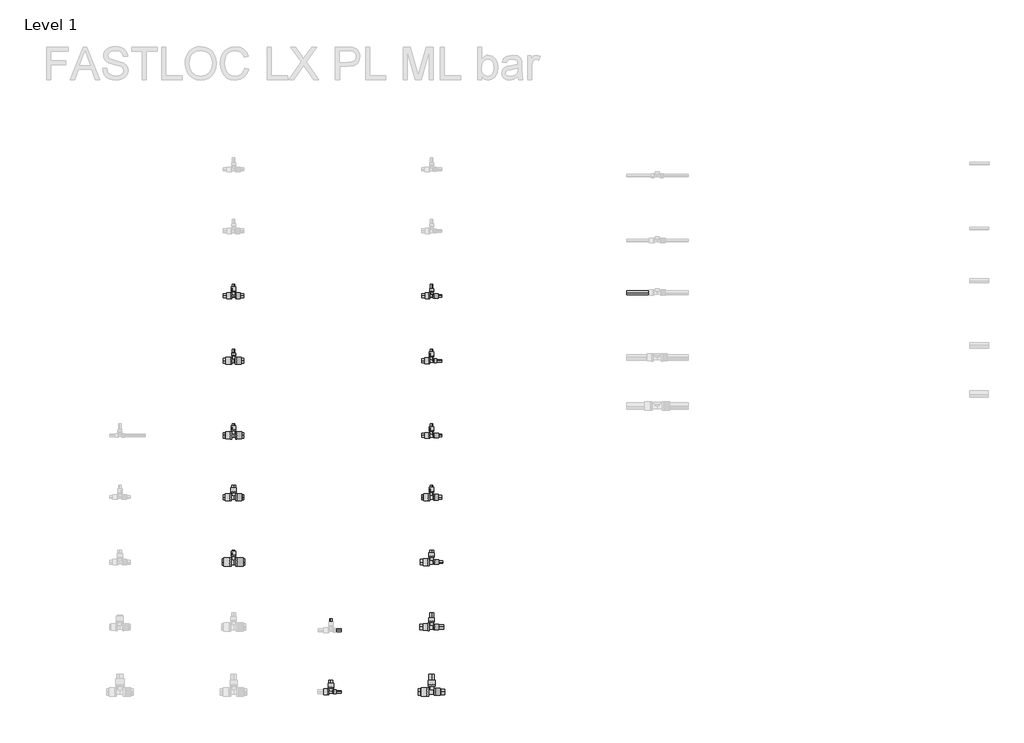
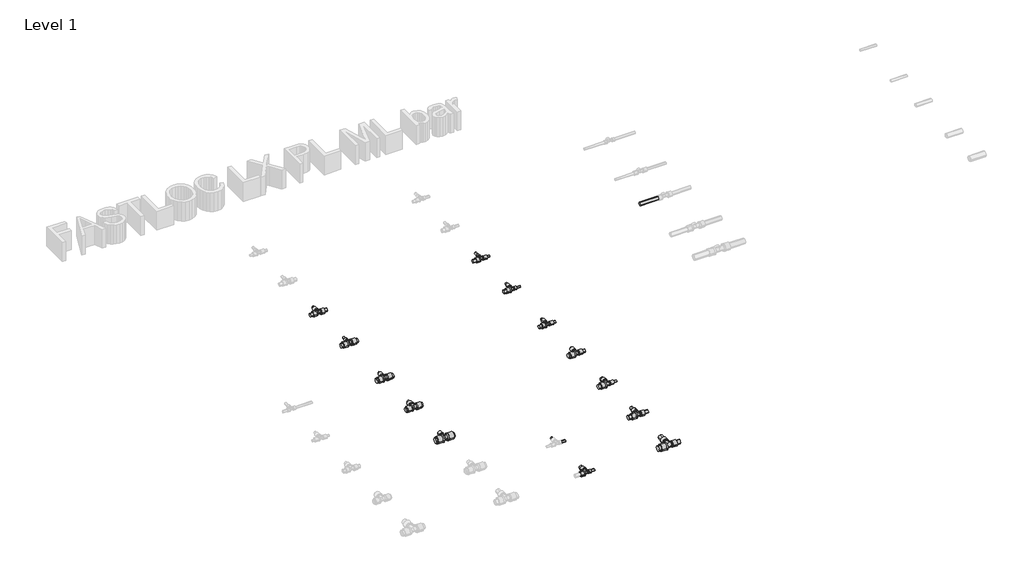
# One storey, part 3 of 78: 41 pipe segments, 13 pipe fittings.
"""IFC4 building model written with IfcOpenShell, lengths in millimetres."""

from ifc_helpers import new_model, si_unit, point, frame, frame_2d, origin, place, context, project, spatial, circle_curve, trimmed, segment, composite_curve, outline, extrude, transform, mapped, element, save
from components import pipe_fitting_7435f538, pipe_fitting_b40a3e3c, pipe_fitting_68251213, pipe_fitting_d9a56b63, pipe_fitting_a094db19, pipe_fitting_16730f07, pipe_fitting_5d5decb5, pipe_fitting_f2600fd0, pipe_fitting_8d489ee2, pipe_fitting_c4e8b4db, pipe_fitting_757463f1, pipe_fitting_3bea6388, pipe_fitting_e638986c

model = new_model("IFC4")

# Units and contexts
model_context = context("Model", 3, world=origin())
ifc_project = project(units=[si_unit("LENGTHUNIT", "METRE", prefix="MILLI")], contexts=[model_context])

# Site, building, storey
site = spatial("IfcSite", under=ifc_project)
building = spatial("IfcBuilding", under=site)
storey = spatial("IfcBuildingStorey", under=building, Name="Level 1", Elevation=0.0)

# Pipe fittings
placement = place(None, origin())
pipe_fitting_shape = pipe_fitting_7435f538(model_context)
element("IfcPipeFitting", 1, ObjectType="FASTLOC_T-piece_LX : FSL T-Piece LX PL", at=placement, inside=storey, context=model_context, shape_type="MappedRepresentation", body=[
    mapped(pipe_fitting_shape, transform((426.7498072, -37180.2405791, 0.0), x_axis=(1.0, 0.0, 0.0), y_axis=(0.0, 1.0, 0.0), z_axis=(0.0, 0.0, 1.0))),
])
pipe_fitting_2_shape = pipe_fitting_b40a3e3c(model_context)
element("IfcPipeFitting", 2, ObjectType="FASTLOC_T-piece_LX : FSL T-Piece LX PL", at=placement, inside=storey, context=model_context, shape_type="MappedRepresentation", body=[
    mapped(pipe_fitting_2_shape, transform((426.7498072, -37560.2405791, 0.0), x_axis=(1.0, 0.0, 0.0), y_axis=(0.0, 1.0, 0.0), z_axis=(0.0, 0.0, 1.0))),
])
pipe_fitting_3_shape = pipe_fitting_68251213(model_context)
element("IfcPipeFitting", 3, ObjectType="FASTLOC_T-piece_LX : FSL T-Piece LX PL", at=placement, inside=storey, context=model_context, shape_type="MappedRepresentation", body=[
    mapped(pipe_fitting_3_shape, transform((426.7498072, -37960.2405791, 0.0), x_axis=(1.0, 0.0, 0.0), y_axis=(0.0, 1.0, 0.0), z_axis=(0.0, 0.0, 1.0))),
])
pipe_fitting_4_shape = pipe_fitting_d9a56b63(model_context)
element("IfcPipeFitting", 4, ObjectType="FASTLOC_T-piece_LX : FSL T-Piece LX PL", at=placement, inside=storey, context=model_context, shape_type="MappedRepresentation", body=[
    mapped(pipe_fitting_4_shape, transform((426.7498072, -36320.2405791, 0.0), x_axis=(1.0, 0.0, 0.0), y_axis=(0.0, 1.0, 0.0), z_axis=(0.0, 0.0, 1.0))),
])
pipe_fitting_5_shape = pipe_fitting_a094db19(model_context)
element("IfcPipeFitting", 5, ObjectType="FASTLOC_T-piece_LX : FSL T-Piece LX PL", at=placement, inside=storey, context=model_context, shape_type="MappedRepresentation", body=[
    mapped(pipe_fitting_5_shape, transform((426.7498072, -36720.2405791, 0.0), x_axis=(1.0, 0.0, 0.0), y_axis=(0.0, 1.0, 0.0), z_axis=(0.0, 0.0, 1.0))),
])
pipe_fitting_6_shape = pipe_fitting_16730f07(model_context)
element("IfcPipeFitting", 6, ObjectType="FASTLOC_T-piece_LX : FSL T-Piece LX PL", at=placement, inside=storey, context=model_context, shape_type="MappedRepresentation", body=[
    mapped(pipe_fitting_6_shape, transform((1026.7498072, -38760.2405791, 0.0), x_axis=(1.0, 0.0, 0.0), y_axis=(0.0, 1.0, 0.0), z_axis=(0.0, 0.0, 1.0))),
])
pipe_fitting_7_shape = pipe_fitting_5d5decb5(model_context)
element("IfcPipeFitting", 7, ObjectType="FASTLOC_T-piece_LX : FSL T-Piece LX PL", at=placement, inside=storey, context=model_context, shape_type="MappedRepresentation", body=[
    mapped(pipe_fitting_7_shape, transform((1646.7498072, -37180.2405791, 0.0), x_axis=(1.0, 0.0, 0.0), y_axis=(0.0, 1.0, 0.0), z_axis=(0.0, 0.0, 1.0))),
])
pipe_fitting_8_shape = pipe_fitting_f2600fd0(model_context)
element("IfcPipeFitting", 8, ObjectType="FASTLOC_T-piece_LX : FSL T-Piece LX PL", at=placement, inside=storey, context=model_context, shape_type="MappedRepresentation", body=[
    mapped(pipe_fitting_8_shape, transform((1646.7498072, -37560.2405791, 0.0), x_axis=(1.0, 0.0, 0.0), y_axis=(0.0, 1.0, 0.0), z_axis=(0.0, 0.0, 1.0))),
])
pipe_fitting_9_shape = pipe_fitting_8d489ee2(model_context)
element("IfcPipeFitting", 9, ObjectType="FASTLOC_T-piece_LX : FSL T-Piece LX PL", at=placement, inside=storey, context=model_context, shape_type="MappedRepresentation", body=[
    mapped(pipe_fitting_9_shape, transform((1646.7498072, -37960.2405791, 0.0), x_axis=(1.0, 0.0, 0.0), y_axis=(0.0, 1.0, 0.0), z_axis=(0.0, 0.0, 1.0))),
])
pipe_fitting_10_shape = pipe_fitting_c4e8b4db(model_context)
element("IfcPipeFitting", 10, ObjectType="FASTLOC_T-piece_LX : FSL T-Piece LX PL", at=placement, inside=storey, context=model_context, shape_type="MappedRepresentation", body=[
    mapped(pipe_fitting_10_shape, transform((1646.7498072, -38360.2405791, 0.0), x_axis=(1.0, 0.0, 0.0), y_axis=(0.0, 1.0, 0.0), z_axis=(0.0, 0.0, 1.0))),
])
pipe_fitting_11_shape = pipe_fitting_757463f1(model_context)
element("IfcPipeFitting", 11, ObjectType="FASTLOC_T-piece_LX : FSL T-Piece LX PL", at=placement, inside=storey, context=model_context, shape_type="MappedRepresentation", body=[
    mapped(pipe_fitting_11_shape, transform((1646.7498072, -38760.2405791, 0.0), x_axis=(1.0, 0.0, 0.0), y_axis=(0.0, 1.0, 0.0), z_axis=(0.0, 0.0, 1.0))),
])
pipe_fitting_12_shape = pipe_fitting_3bea6388(model_context)
element("IfcPipeFitting", 12, ObjectType="FASTLOC_T-piece_LX : FSL T-Piece LX PL", at=placement, inside=storey, context=model_context, shape_type="MappedRepresentation", body=[
    mapped(pipe_fitting_12_shape, transform((1646.7498072, -36320.2405791, 0.0), x_axis=(1.0, 0.0, 0.0), y_axis=(0.0, 1.0, 0.0), z_axis=(0.0, 0.0, 1.0))),
])
pipe_fitting_13_shape = pipe_fitting_e638986c(model_context)
element("IfcPipeFitting", 13, ObjectType="FASTLOC_T-piece_LX : FSL T-Piece LX PL", at=placement, inside=storey, context=model_context, shape_type="MappedRepresentation", body=[
    mapped(pipe_fitting_13_shape, transform((1646.7498072, -36720.2405791, 0.0), x_axis=(1.0, 0.0, 0.0), y_axis=(0.0, 1.0, 0.0), z_axis=(0.0, 0.0, 1.0))),
])

# Pipe segments
element("IfcPipeSegment", 14, ObjectType="FASTLOC LX ML PL bar", at=placement, inside=storey, context=model_context, shape_type="SweptSolid", body=[
    extrude(outline(composite_curve([segment(trimmed(circle_curve(frame_2d((-37180.2405791, 0.0)), 16.0), [point((-37196.2405791, 0.0))], [point((-37180.2405791, 16.0))], False, "CARTESIAN"), True, "CONTINUOUS"), segment(trimmed(circle_curve(frame_2d((-37180.2405791, 0.0)), 16.0), [point((-37180.2405791, 16.0))], [point((-37164.2405791, 0.0))], False, "CARTESIAN"), True, "CONTINUOUS"), segment(trimmed(circle_curve(frame_2d((-37180.2405791, 0.0)), 16.0), [point((-37164.2405791, 0.0))], [point((-37180.2405791, -16.0))], False, "CARTESIAN"), True, "CONTINUOUS"), segment(trimmed(circle_curve(frame_2d((-37180.2405791, 0.0)), 16.0), [point((-37180.2405791, -16.0))], [point((-37196.2405791, 0.0))], False, "CARTESIAN"), True, "CONTINUOUS")], self_intersect=False)), frame((446.9498072, 0.0, 0.0), z_axis=(1.0, 0.0, 0.0), x_axis=(0.0, 1.0, 0.0)), (0.0, 0.0, 1.0), 41.8),
])
element("IfcPipeSegment", 15, ObjectType="FASTLOC LX ML PL bar", at=placement, inside=storey, context=model_context, shape_type="SweptSolid", body=[
    extrude(outline(composite_curve([segment(trimmed(circle_curve(frame_2d((-37180.2405791, 0.0)), 16.0), [point((-37164.2405791, 0.0))], [point((-37180.2405791, -16.0))], False, "CARTESIAN"), True, "CONTINUOUS"), segment(trimmed(circle_curve(frame_2d((-37180.2405791, 0.0)), 16.0), [point((-37180.2405791, -16.0))], [point((-37196.2405791, 0.0))], False, "CARTESIAN"), True, "CONTINUOUS"), segment(trimmed(circle_curve(frame_2d((-37180.2405791, 0.0)), 16.0), [point((-37196.2405791, 0.0))], [point((-37180.2405791, 16.0))], False, "CARTESIAN"), True, "CONTINUOUS"), segment(trimmed(circle_curve(frame_2d((-37180.2405791, 0.0)), 16.0), [point((-37180.2405791, 16.0))], [point((-37164.2405791, 0.0))], False, "CARTESIAN"), True, "CONTINUOUS")], self_intersect=False)), frame((364.7498072, 0.0, 0.0), z_axis=(1.0, 0.0, 0.0), x_axis=(0.0, 1.0, 0.0)), (0.0, 0.0, 1.0), 41.8),
])
element("IfcPipeSegment", 16, ObjectType="FASTLOC LX ML PL bar", at=placement, inside=storey, context=model_context, shape_type="SweptSolid", body=[
    extrude(outline(composite_curve([segment(trimmed(circle_curve(frame_2d((0.0, 426.7498072)), 8.0), [point((0.0, 434.7498072))], [point((8.0, 426.7498072))], False, "CARTESIAN"), True, "CONTINUOUS"), segment(trimmed(circle_curve(frame_2d((0.0, 426.7498072)), 8.0), [point((8.0, 426.7498072))], [point((0.0, 418.7498072))], False, "CARTESIAN"), True, "CONTINUOUS"), segment(trimmed(circle_curve(frame_2d((0.0, 426.7498072)), 8.0), [point((0.0, 418.7498072))], [point((-8.0, 426.7498072))], False, "CARTESIAN"), True, "CONTINUOUS"), segment(trimmed(circle_curve(frame_2d((0.0, 426.7498072)), 8.0), [point((-8.0, 426.7498072))], [point((0.0, 434.7498072))], False, "CARTESIAN"), True, "CONTINUOUS")], self_intersect=False)), frame((0.0, -37146.2405791, 0.0), z_axis=(0.0, 1.0, 0.0), x_axis=(0.0, 0.0, 1.0)), (0.0, 0.0, 1.0), 38.3),
])
element("IfcPipeSegment", 17, ObjectType="FASTLOC LX ML PL bar", at=placement, inside=storey, context=model_context, shape_type="SweptSolid", body=[
    extrude(outline(composite_curve([segment(trimmed(circle_curve(frame_2d((-37560.2405791, 0.0)), 16.0), [point((-37576.2405791, 0.0))], [point((-37560.2405791, 16.0))], False, "CARTESIAN"), True, "CONTINUOUS"), segment(trimmed(circle_curve(frame_2d((-37560.2405791, 0.0)), 16.0), [point((-37560.2405791, 16.0))], [point((-37544.2405791, 0.0))], False, "CARTESIAN"), True, "CONTINUOUS"), segment(trimmed(circle_curve(frame_2d((-37560.2405791, 0.0)), 16.0), [point((-37544.2405791, 0.0))], [point((-37560.2405791, -16.0))], False, "CARTESIAN"), True, "CONTINUOUS"), segment(trimmed(circle_curve(frame_2d((-37560.2405791, 0.0)), 16.0), [point((-37560.2405791, -16.0))], [point((-37576.2405791, 0.0))], False, "CARTESIAN"), True, "CONTINUOUS")], self_intersect=False)), frame((448.7498072, 0.0, 0.0), z_axis=(1.0, 0.0, 0.0), x_axis=(0.0, 1.0, 0.0)), (0.0, 0.0, 1.0), 40.0),
])
element("IfcPipeSegment", 18, ObjectType="FASTLOC LX ML PL bar", at=placement, inside=storey, context=model_context, shape_type="SweptSolid", body=[
    extrude(outline(composite_curve([segment(trimmed(circle_curve(frame_2d((-37560.2405791, 0.0)), 16.0), [point((-37544.2405791, 0.0))], [point((-37560.2405791, -16.0))], False, "CARTESIAN"), True, "CONTINUOUS"), segment(trimmed(circle_curve(frame_2d((-37560.2405791, 0.0)), 16.0), [point((-37560.2405791, -16.0))], [point((-37576.2405791, 0.0))], False, "CARTESIAN"), True, "CONTINUOUS"), segment(trimmed(circle_curve(frame_2d((-37560.2405791, 0.0)), 16.0), [point((-37576.2405791, 0.0))], [point((-37560.2405791, 16.0))], False, "CARTESIAN"), True, "CONTINUOUS"), segment(trimmed(circle_curve(frame_2d((-37560.2405791, 0.0)), 16.0), [point((-37560.2405791, 16.0))], [point((-37544.2405791, 0.0))], False, "CARTESIAN"), True, "CONTINUOUS")], self_intersect=False)), frame((364.7498072, 0.0, 0.0), z_axis=(1.0, 0.0, 0.0), x_axis=(0.0, 1.0, 0.0)), (0.0, 0.0, 1.0), 40.0),
])
element("IfcPipeSegment", 19, ObjectType="FASTLOC LX ML PL bar", at=placement, inside=storey, context=model_context, shape_type="SweptSolid", body=[
    extrude(outline(composite_curve([segment(trimmed(circle_curve(frame_2d((0.0, 426.7498072)), 12.5), [point((0.0, 439.2498072))], [point((12.5, 426.7498072))], False, "CARTESIAN"), True, "CONTINUOUS"), segment(trimmed(circle_curve(frame_2d((0.0, 426.7498072)), 12.5), [point((12.5, 426.7498072))], [point((0.0, 414.2498072))], False, "CARTESIAN"), True, "CONTINUOUS"), segment(trimmed(circle_curve(frame_2d((0.0, 426.7498072)), 12.5), [point((0.0, 414.2498072))], [point((-12.5, 426.7498072))], False, "CARTESIAN"), True, "CONTINUOUS"), segment(trimmed(circle_curve(frame_2d((0.0, 426.7498072)), 12.5), [point((-12.5, 426.7498072))], [point((0.0, 439.2498072))], False, "CARTESIAN"), True, "CONTINUOUS")], self_intersect=False)), frame((0.0, -37525.8405791, 0.0), z_axis=(0.0, 1.0, 0.0), x_axis=(0.0, 0.0, 1.0)), (0.0, 0.0, 1.0), 37.9),
])
element("IfcPipeSegment", 20, ObjectType="FASTLOC LX ML PL bar", at=placement, inside=storey, context=model_context, shape_type="SweptSolid", body=[
    extrude(outline(composite_curve([segment(trimmed(circle_curve(frame_2d((-37960.2405791, 0.0)), 20.0), [point((-37980.2405791, 0.0))], [point((-37960.2405791, 20.0))], False, "CARTESIAN"), True, "CONTINUOUS"), segment(trimmed(circle_curve(frame_2d((-37960.2405791, 0.0)), 20.0), [point((-37960.2405791, 20.0))], [point((-37940.2405791, 0.0))], False, "CARTESIAN"), True, "CONTINUOUS"), segment(trimmed(circle_curve(frame_2d((-37960.2405791, 0.0)), 20.0), [point((-37940.2405791, 0.0))], [point((-37960.2405791, -20.0))], False, "CARTESIAN"), True, "CONTINUOUS"), segment(trimmed(circle_curve(frame_2d((-37960.2405791, 0.0)), 20.0), [point((-37960.2405791, -20.0))], [point((-37980.2405791, 0.0))], False, "CARTESIAN"), True, "CONTINUOUS")], self_intersect=False)), frame((450.7498072, 0.0, 0.0), z_axis=(1.0, 0.0, 0.0), x_axis=(0.0, 1.0, 0.0)), (0.0, 0.0, 1.0), 45.0),
])
element("IfcPipeSegment", 21, ObjectType="FASTLOC LX ML PL bar", at=placement, inside=storey, context=model_context, shape_type="SweptSolid", body=[
    extrude(outline(composite_curve([segment(trimmed(circle_curve(frame_2d((-37960.2405791, 0.0)), 20.0), [point((-37940.2405791, 0.0))], [point((-37960.2405791, -20.0))], False, "CARTESIAN"), True, "CONTINUOUS"), segment(trimmed(circle_curve(frame_2d((-37960.2405791, 0.0)), 20.0), [point((-37960.2405791, -20.0))], [point((-37980.2405791, 0.0))], False, "CARTESIAN"), True, "CONTINUOUS"), segment(trimmed(circle_curve(frame_2d((-37960.2405791, 0.0)), 20.0), [point((-37980.2405791, 0.0))], [point((-37960.2405791, 20.0))], False, "CARTESIAN"), True, "CONTINUOUS"), segment(trimmed(circle_curve(frame_2d((-37960.2405791, 0.0)), 20.0), [point((-37960.2405791, 20.0))], [point((-37940.2405791, 0.0))], False, "CARTESIAN"), True, "CONTINUOUS")], self_intersect=False)), frame((357.7498072, 0.0, 0.0), z_axis=(1.0, 0.0, 0.0), x_axis=(0.0, 1.0, 0.0)), (0.0, 0.0, 1.0), 45.0),
])
element("IfcPipeSegment", 22, ObjectType="FASTLOC LX ML PL bar", at=placement, inside=storey, context=model_context, shape_type="SweptSolid", body=[
    extrude(outline(composite_curve([segment(trimmed(circle_curve(frame_2d((0.0, 426.7498072)), 8.0), [point((0.0, 434.7498072))], [point((8.0, 426.7498072))], False, "CARTESIAN"), True, "CONTINUOUS"), segment(trimmed(circle_curve(frame_2d((0.0, 426.7498072)), 8.0), [point((8.0, 426.7498072))], [point((0.0, 418.7498072))], False, "CARTESIAN"), True, "CONTINUOUS"), segment(trimmed(circle_curve(frame_2d((0.0, 426.7498072)), 8.0), [point((0.0, 418.7498072))], [point((-8.0, 426.7498072))], False, "CARTESIAN"), True, "CONTINUOUS"), segment(trimmed(circle_curve(frame_2d((0.0, 426.7498072)), 8.0), [point((-8.0, 426.7498072))], [point((0.0, 434.7498072))], False, "CARTESIAN"), True, "CONTINUOUS")], self_intersect=False)), frame((0.0, -37919.7405791, 0.0), z_axis=(0.0, 1.0, 0.0), x_axis=(0.0, 0.0, 1.0)), (0.0, 0.0, 1.0), 31.8),
])
element("IfcPipeSegment", 23, ObjectType="FASTLOC LX ML PL bar", at=placement, inside=storey, context=model_context, shape_type="SweptSolid", body=[
    extrude(outline(composite_curve([segment(trimmed(circle_curve(frame_2d((-36320.2405791, 0.0)), 12.5), [point((-36332.7405791, 0.0))], [point((-36320.2405791, 12.5))], False, "CARTESIAN"), True, "CONTINUOUS"), segment(trimmed(circle_curve(frame_2d((-36320.2405791, 0.0)), 12.5), [point((-36320.2405791, 12.5))], [point((-36307.7405791, 0.0))], False, "CARTESIAN"), True, "CONTINUOUS"), segment(trimmed(circle_curve(frame_2d((-36320.2405791, 0.0)), 12.5), [point((-36307.7405791, 0.0))], [point((-36320.2405791, -12.5))], False, "CARTESIAN"), True, "CONTINUOUS"), segment(trimmed(circle_curve(frame_2d((-36320.2405791, 0.0)), 12.5), [point((-36320.2405791, -12.5))], [point((-36332.7405791, 0.0))], False, "CARTESIAN"), True, "CONTINUOUS")], self_intersect=False)), frame((444.8498072, 0.0, 0.0), z_axis=(1.0, 0.0, 0.0), x_axis=(0.0, 1.0, 0.0)), (0.0, 0.0, 1.0), 43.9),
])
element("IfcPipeSegment", 24, ObjectType="FASTLOC LX ML PL bar", at=placement, inside=storey, context=model_context, shape_type="SweptSolid", body=[
    extrude(outline(composite_curve([segment(trimmed(circle_curve(frame_2d((-36320.2405791, 0.0)), 12.5), [point((-36307.7405791, 0.0))], [point((-36320.2405791, -12.5))], False, "CARTESIAN"), True, "CONTINUOUS"), segment(trimmed(circle_curve(frame_2d((-36320.2405791, 0.0)), 12.5), [point((-36320.2405791, -12.5))], [point((-36332.7405791, 0.0))], False, "CARTESIAN"), True, "CONTINUOUS"), segment(trimmed(circle_curve(frame_2d((-36320.2405791, 0.0)), 12.5), [point((-36332.7405791, 0.0))], [point((-36320.2405791, 12.5))], False, "CARTESIAN"), True, "CONTINUOUS"), segment(trimmed(circle_curve(frame_2d((-36320.2405791, 0.0)), 12.5), [point((-36320.2405791, 12.5))], [point((-36307.7405791, 0.0))], False, "CARTESIAN"), True, "CONTINUOUS")], self_intersect=False)), frame((364.7498072, 0.0, 0.0), z_axis=(1.0, 0.0, 0.0), x_axis=(0.0, 1.0, 0.0)), (0.0, 0.0, 1.0), 43.9),
])
element("IfcPipeSegment", 25, ObjectType="FASTLOC LX ML PL bar", at=placement, inside=storey, context=model_context, shape_type="SweptSolid", body=[
    extrude(outline(composite_curve([segment(trimmed(circle_curve(frame_2d((0.0, 426.7498072)), 8.0), [point((0.0, 434.7498072))], [point((8.0, 426.7498072))], False, "CARTESIAN"), True, "CONTINUOUS"), segment(trimmed(circle_curve(frame_2d((0.0, 426.7498072)), 8.0), [point((8.0, 426.7498072))], [point((0.0, 418.7498072))], False, "CARTESIAN"), True, "CONTINUOUS"), segment(trimmed(circle_curve(frame_2d((0.0, 426.7498072)), 8.0), [point((0.0, 418.7498072))], [point((-8.0, 426.7498072))], False, "CARTESIAN"), True, "CONTINUOUS"), segment(trimmed(circle_curve(frame_2d((0.0, 426.7498072)), 8.0), [point((-8.0, 426.7498072))], [point((0.0, 434.7498072))], False, "CARTESIAN"), True, "CONTINUOUS")], self_intersect=False)), frame((0.0, -36291.0405791, 0.0), z_axis=(0.0, 1.0, 0.0), x_axis=(0.0, 0.0, 1.0)), (0.0, 0.0, 1.0), 43.1),
])
element("IfcPipeSegment", 26, ObjectType="FASTLOC LX ML PL bar", at=placement, inside=storey, context=model_context, shape_type="SweptSolid", body=[
    extrude(outline(composite_curve([segment(trimmed(circle_curve(frame_2d((-36720.2405791, 0.0)), 16.0), [point((-36736.2405791, 0.0))], [point((-36720.2405791, 16.0))], False, "CARTESIAN"), True, "CONTINUOUS"), segment(trimmed(circle_curve(frame_2d((-36720.2405791, 0.0)), 16.0), [point((-36720.2405791, 16.0))], [point((-36704.2405791, 0.0))], False, "CARTESIAN"), True, "CONTINUOUS"), segment(trimmed(circle_curve(frame_2d((-36720.2405791, 0.0)), 16.0), [point((-36704.2405791, 0.0))], [point((-36720.2405791, -16.0))], False, "CARTESIAN"), True, "CONTINUOUS"), segment(trimmed(circle_curve(frame_2d((-36720.2405791, 0.0)), 16.0), [point((-36720.2405791, -16.0))], [point((-36736.2405791, 0.0))], False, "CARTESIAN"), True, "CONTINUOUS")], self_intersect=False)), frame((445.0498072, 0.0, 0.0), z_axis=(1.0, 0.0, 0.0), x_axis=(0.0, 1.0, 0.0)), (0.0, 0.0, 1.0), 43.7),
])
element("IfcPipeSegment", 27, ObjectType="FASTLOC LX ML PL bar", at=placement, inside=storey, context=model_context, shape_type="SweptSolid", body=[
    extrude(outline(composite_curve([segment(trimmed(circle_curve(frame_2d((-36720.2405791, 0.0)), 16.0), [point((-36704.2405791, 0.0))], [point((-36720.2405791, -16.0))], False, "CARTESIAN"), True, "CONTINUOUS"), segment(trimmed(circle_curve(frame_2d((-36720.2405791, 0.0)), 16.0), [point((-36720.2405791, -16.0))], [point((-36736.2405791, 0.0))], False, "CARTESIAN"), True, "CONTINUOUS"), segment(trimmed(circle_curve(frame_2d((-36720.2405791, 0.0)), 16.0), [point((-36736.2405791, 0.0))], [point((-36720.2405791, 16.0))], False, "CARTESIAN"), True, "CONTINUOUS"), segment(trimmed(circle_curve(frame_2d((-36720.2405791, 0.0)), 16.0), [point((-36720.2405791, 16.0))], [point((-36704.2405791, 0.0))], False, "CARTESIAN"), True, "CONTINUOUS")], self_intersect=False)), frame((364.7498072, 0.0, 0.0), z_axis=(1.0, 0.0, 0.0), x_axis=(0.0, 1.0, 0.0)), (0.0, 0.0, 1.0), 43.7),
])
element("IfcPipeSegment", 28, ObjectType="FASTLOC LX ML PL bar", at=placement, inside=storey, context=model_context, shape_type="SweptSolid", body=[
    extrude(outline(composite_curve([segment(trimmed(circle_curve(frame_2d((0.0, 426.7498072)), 8.0), [point((0.0, 434.7498072))], [point((8.0, 426.7498072))], False, "CARTESIAN"), True, "CONTINUOUS"), segment(trimmed(circle_curve(frame_2d((0.0, 426.7498072)), 8.0), [point((8.0, 426.7498072))], [point((0.0, 418.7498072))], False, "CARTESIAN"), True, "CONTINUOUS"), segment(trimmed(circle_curve(frame_2d((0.0, 426.7498072)), 8.0), [point((0.0, 418.7498072))], [point((-8.0, 426.7498072))], False, "CARTESIAN"), True, "CONTINUOUS"), segment(trimmed(circle_curve(frame_2d((0.0, 426.7498072)), 8.0), [point((-8.0, 426.7498072))], [point((0.0, 434.7498072))], False, "CARTESIAN"), True, "CONTINUOUS")], self_intersect=False)), frame((0.0, -36686.3405791, 0.0), z_axis=(0.0, 1.0, 0.0), x_axis=(0.0, 0.0, 1.0)), (0.0, 0.0, 1.0), 38.4),
])
element("IfcPipeSegment", 29, ObjectType="FASTLOC LX ML PL bar", at=placement, inside=storey, context=model_context, shape_type="SweptSolid", body=[
    extrude(outline(composite_curve([segment(trimmed(circle_curve(frame_2d((-38380.2405791, 0.0)), 8.0), [point((-38388.2405791, 0.0))], [point((-38380.2405791, 8.0))], False, "CARTESIAN"), True, "CONTINUOUS"), segment(trimmed(circle_curve(frame_2d((-38380.2405791, 0.0)), 8.0), [point((-38380.2405791, 8.0))], [point((-38372.2405791, 0.0))], False, "CARTESIAN"), True, "CONTINUOUS"), segment(trimmed(circle_curve(frame_2d((-38380.2405791, 0.0)), 8.0), [point((-38372.2405791, 0.0))], [point((-38380.2405791, -8.0))], False, "CARTESIAN"), True, "CONTINUOUS"), segment(trimmed(circle_curve(frame_2d((-38380.2405791, 0.0)), 8.0), [point((-38380.2405791, -8.0))], [point((-38388.2405791, 0.0))], False, "CARTESIAN"), True, "CONTINUOUS")], self_intersect=False)), frame((1043.7498072, 0.0, 0.0), z_axis=(1.0, 0.0, 0.0), x_axis=(0.0, 1.0, 0.0)), (0.0, 0.0, 1.0), 45.0),
])
element("IfcPipeSegment", 30, ObjectType="FASTLOC LX ML PL bar", at=placement, inside=storey, context=model_context, shape_type="SweptSolid", body=[
    extrude(outline(composite_curve([segment(trimmed(circle_curve(frame_2d((0.0, 1026.7498072)), 8.0), [point((0.0, 1034.7498072))], [point((8.0, 1026.7498072))], False, "CARTESIAN"), True, "CONTINUOUS"), segment(trimmed(circle_curve(frame_2d((0.0, 1026.7498072)), 8.0), [point((8.0, 1026.7498072))], [point((0.0, 1018.7498072))], False, "CARTESIAN"), True, "CONTINUOUS"), segment(trimmed(circle_curve(frame_2d((0.0, 1026.7498072)), 8.0), [point((0.0, 1018.7498072))], [point((-8.0, 1026.7498072))], False, "CARTESIAN"), True, "CONTINUOUS"), segment(trimmed(circle_curve(frame_2d((0.0, 1026.7498072)), 8.0), [point((-8.0, 1026.7498072))], [point((0.0, 1034.7498072))], False, "CARTESIAN"), True, "CONTINUOUS")], self_intersect=False)), frame((0.0, -38353.8405791, 0.0), z_axis=(0.0, 1.0, 0.0), x_axis=(0.0, 0.0, 1.0)), (0.0, 0.0, 1.0), 45.9),
])
element("IfcPipeSegment", 31, ObjectType="FASTLOC LX ML PL bar", at=placement, inside=storey, context=model_context, shape_type="SweptSolid", body=[
    extrude(outline(composite_curve([segment(trimmed(circle_curve(frame_2d((-38760.2405791, 0.0)), 8.0), [point((-38768.2405791, 0.0))], [point((-38760.2405791, 8.0))], False, "CARTESIAN"), True, "CONTINUOUS"), segment(trimmed(circle_curve(frame_2d((-38760.2405791, 0.0)), 8.0), [point((-38760.2405791, 8.0))], [point((-38752.2405791, 0.0))], False, "CARTESIAN"), True, "CONTINUOUS"), segment(trimmed(circle_curve(frame_2d((-38760.2405791, 0.0)), 8.0), [point((-38752.2405791, 0.0))], [point((-38760.2405791, -8.0))], False, "CARTESIAN"), True, "CONTINUOUS"), segment(trimmed(circle_curve(frame_2d((-38760.2405791, 0.0)), 8.0), [point((-38760.2405791, -8.0))], [point((-38768.2405791, 0.0))], False, "CARTESIAN"), True, "CONTINUOUS")], self_intersect=False)), frame((1045.5498072, 0.0, 0.0), z_axis=(1.0, 0.0, 0.0), x_axis=(0.0, 1.0, 0.0)), (0.0, 0.0, 1.0), 43.2),
])
element("IfcPipeSegment", 32, ObjectType="FASTLOC LX ML PL bar", at=placement, inside=storey, context=model_context, shape_type="SweptSolid", body=[
    extrude(outline(composite_curve([segment(trimmed(circle_curve(frame_2d((0.0, 1026.7498072)), 12.5), [point((0.0, 1039.2498072))], [point((12.5, 1026.7498072))], False, "CARTESIAN"), True, "CONTINUOUS"), segment(trimmed(circle_curve(frame_2d((0.0, 1026.7498072)), 12.5), [point((12.5, 1026.7498072))], [point((0.0, 1014.2498072))], False, "CARTESIAN"), True, "CONTINUOUS"), segment(trimmed(circle_curve(frame_2d((0.0, 1026.7498072)), 12.5), [point((0.0, 1014.2498072))], [point((-12.5, 1026.7498072))], False, "CARTESIAN"), True, "CONTINUOUS"), segment(trimmed(circle_curve(frame_2d((0.0, 1026.7498072)), 12.5), [point((-12.5, 1026.7498072))], [point((0.0, 1039.2498072))], False, "CARTESIAN"), True, "CONTINUOUS")], self_intersect=False)), frame((0.0, -38730.7405791, 0.0), z_axis=(0.0, 1.0, 0.0), x_axis=(0.0, 0.0, 1.0)), (0.0, 0.0, 1.0), 42.8),
])
element("IfcPipeSegment", 33, ObjectType="FASTLOC LX ML PL bar", at=placement, inside=storey, context=model_context, shape_type="SweptSolid", body=[
    extrude(outline(composite_curve([segment(trimmed(circle_curve(frame_2d((-37180.2405791, 0.0)), 8.0), [point((-37188.2405791, 0.0))], [point((-37180.2405791, 8.0))], False, "CARTESIAN"), True, "CONTINUOUS"), segment(trimmed(circle_curve(frame_2d((-37180.2405791, 0.0)), 8.0), [point((-37180.2405791, 8.0))], [point((-37172.2405791, 0.0))], False, "CARTESIAN"), True, "CONTINUOUS"), segment(trimmed(circle_curve(frame_2d((-37180.2405791, 0.0)), 8.0), [point((-37172.2405791, 0.0))], [point((-37180.2405791, -8.0))], False, "CARTESIAN"), True, "CONTINUOUS"), segment(trimmed(circle_curve(frame_2d((-37180.2405791, 0.0)), 8.0), [point((-37180.2405791, -8.0))], [point((-37188.2405791, 0.0))], False, "CARTESIAN"), True, "CONTINUOUS")], self_intersect=False)), frame((1664.1498072, 0.0, 0.0), z_axis=(1.0, 0.0, 0.0), x_axis=(0.0, 1.0, 0.0)), (0.0, 0.0, 1.0), 44.6),
])
element("IfcPipeSegment", 34, ObjectType="FASTLOC LX ML PL bar", at=placement, inside=storey, context=model_context, shape_type="SweptSolid", body=[
    extrude(outline(composite_curve([segment(trimmed(circle_curve(frame_2d((-37180.2405791, 0.0)), 12.5), [point((-37167.7405791, 0.0))], [point((-37180.2405791, -12.5))], False, "CARTESIAN"), True, "CONTINUOUS"), segment(trimmed(circle_curve(frame_2d((-37180.2405791, 0.0)), 12.5), [point((-37180.2405791, -12.5))], [point((-37192.7405791, 0.0))], False, "CARTESIAN"), True, "CONTINUOUS"), segment(trimmed(circle_curve(frame_2d((-37180.2405791, 0.0)), 12.5), [point((-37192.7405791, 0.0))], [point((-37180.2405791, 12.5))], False, "CARTESIAN"), True, "CONTINUOUS"), segment(trimmed(circle_curve(frame_2d((-37180.2405791, 0.0)), 12.5), [point((-37180.2405791, 12.5))], [point((-37167.7405791, 0.0))], False, "CARTESIAN"), True, "CONTINUOUS")], self_intersect=False)), frame((1584.7498072, 0.0, 0.0), z_axis=(1.0, 0.0, 0.0), x_axis=(0.0, 1.0, 0.0)), (0.0, 0.0, 1.0), 43.7),
])
element("IfcPipeSegment", 35, ObjectType="FASTLOC LX ML PL bar", at=placement, inside=storey, context=model_context, shape_type="SweptSolid", body=[
    extrude(outline(composite_curve([segment(trimmed(circle_curve(frame_2d((0.0, 1646.7498072)), 8.0), [point((0.0, 1654.7498072))], [point((8.0, 1646.7498072))], False, "CARTESIAN"), True, "CONTINUOUS"), segment(trimmed(circle_curve(frame_2d((0.0, 1646.7498072)), 8.0), [point((8.0, 1646.7498072))], [point((0.0, 1638.7498072))], False, "CARTESIAN"), True, "CONTINUOUS"), segment(trimmed(circle_curve(frame_2d((0.0, 1646.7498072)), 8.0), [point((0.0, 1638.7498072))], [point((-8.0, 1646.7498072))], False, "CARTESIAN"), True, "CONTINUOUS"), segment(trimmed(circle_curve(frame_2d((0.0, 1646.7498072)), 8.0), [point((-8.0, 1646.7498072))], [point((0.0, 1654.7498072))], False, "CARTESIAN"), True, "CONTINUOUS")], self_intersect=False)), frame((0.0, -37151.0405791, 0.0), z_axis=(0.0, 1.0, 0.0), x_axis=(0.0, 0.0, 1.0)), (0.0, 0.0, 1.0), 43.1),
])
element("IfcPipeSegment", 36, ObjectType="FASTLOC LX ML PL bar", at=placement, inside=storey, context=model_context, shape_type="SweptSolid", body=[
    extrude(outline(composite_curve([segment(trimmed(circle_curve(frame_2d((-37560.2405791, 0.0)), 12.5), [point((-37572.7405791, 0.0))], [point((-37560.2405791, 12.5))], False, "CARTESIAN"), True, "CONTINUOUS"), segment(trimmed(circle_curve(frame_2d((-37560.2405791, 0.0)), 12.5), [point((-37560.2405791, 12.5))], [point((-37547.7405791, 0.0))], False, "CARTESIAN"), True, "CONTINUOUS"), segment(trimmed(circle_curve(frame_2d((-37560.2405791, 0.0)), 12.5), [point((-37547.7405791, 0.0))], [point((-37560.2405791, -12.5))], False, "CARTESIAN"), True, "CONTINUOUS"), segment(trimmed(circle_curve(frame_2d((-37560.2405791, 0.0)), 12.5), [point((-37560.2405791, -12.5))], [point((-37572.7405791, 0.0))], False, "CARTESIAN"), True, "CONTINUOUS")], self_intersect=False)), frame((1665.0498072, 0.0, 0.0), z_axis=(1.0, 0.0, 0.0), x_axis=(0.0, 1.0, 0.0)), (0.0, 0.0, 1.0), 43.7),
])
element("IfcPipeSegment", 37, ObjectType="FASTLOC LX ML PL bar", at=placement, inside=storey, context=model_context, shape_type="SweptSolid", body=[
    extrude(outline(composite_curve([segment(trimmed(circle_curve(frame_2d((-37560.2405791, 0.0)), 16.0), [point((-37544.2405791, 0.0))], [point((-37560.2405791, -16.0))], False, "CARTESIAN"), True, "CONTINUOUS"), segment(trimmed(circle_curve(frame_2d((-37560.2405791, 0.0)), 16.0), [point((-37560.2405791, -16.0))], [point((-37576.2405791, 0.0))], False, "CARTESIAN"), True, "CONTINUOUS"), segment(trimmed(circle_curve(frame_2d((-37560.2405791, 0.0)), 16.0), [point((-37576.2405791, 0.0))], [point((-37560.2405791, 16.0))], False, "CARTESIAN"), True, "CONTINUOUS"), segment(trimmed(circle_curve(frame_2d((-37560.2405791, 0.0)), 16.0), [point((-37560.2405791, 16.0))], [point((-37544.2405791, 0.0))], False, "CARTESIAN"), True, "CONTINUOUS")], self_intersect=False)), frame((1584.7498072, 0.0, 0.0), z_axis=(1.0, 0.0, 0.0), x_axis=(0.0, 1.0, 0.0)), (0.0, 0.0, 1.0), 41.7),
])
element("IfcPipeSegment", 38, ObjectType="FASTLOC LX ML PL bar", at=placement, inside=storey, context=model_context, shape_type="SweptSolid", body=[
    extrude(outline(composite_curve([segment(trimmed(circle_curve(frame_2d((0.0, 1646.7498072)), 8.0), [point((0.0, 1654.7498072))], [point((8.0, 1646.7498072))], False, "CARTESIAN"), True, "CONTINUOUS"), segment(trimmed(circle_curve(frame_2d((0.0, 1646.7498072)), 8.0), [point((8.0, 1646.7498072))], [point((0.0, 1638.7498072))], False, "CARTESIAN"), True, "CONTINUOUS"), segment(trimmed(circle_curve(frame_2d((0.0, 1646.7498072)), 8.0), [point((0.0, 1638.7498072))], [point((-8.0, 1646.7498072))], False, "CARTESIAN"), True, "CONTINUOUS"), segment(trimmed(circle_curve(frame_2d((0.0, 1646.7498072)), 8.0), [point((-8.0, 1646.7498072))], [point((0.0, 1654.7498072))], False, "CARTESIAN"), True, "CONTINUOUS")], self_intersect=False)), frame((0.0, -37526.2405791, 0.0), z_axis=(0.0, 1.0, 0.0), x_axis=(0.0, 0.0, 1.0)), (0.0, 0.0, 1.0), 38.3),
])
element("IfcPipeSegment", 39, ObjectType="FASTLOC LX ML PL bar", at=placement, inside=storey, context=model_context, shape_type="SweptSolid", body=[
    extrude(outline(composite_curve([segment(trimmed(circle_curve(frame_2d((-37960.2405791, 0.0)), 8.0), [point((-37968.2405791, 0.0))], [point((-37960.2405791, 8.0))], False, "CARTESIAN"), True, "CONTINUOUS"), segment(trimmed(circle_curve(frame_2d((-37960.2405791, 0.0)), 8.0), [point((-37960.2405791, 8.0))], [point((-37952.2405791, 0.0))], False, "CARTESIAN"), True, "CONTINUOUS"), segment(trimmed(circle_curve(frame_2d((-37960.2405791, 0.0)), 8.0), [point((-37952.2405791, 0.0))], [point((-37960.2405791, -8.0))], False, "CARTESIAN"), True, "CONTINUOUS"), segment(trimmed(circle_curve(frame_2d((-37960.2405791, 0.0)), 8.0), [point((-37960.2405791, -8.0))], [point((-37968.2405791, 0.0))], False, "CARTESIAN"), True, "CONTINUOUS")], self_intersect=False)), frame((1665.9498072, 0.0, 0.0), z_axis=(1.0, 0.0, 0.0), x_axis=(0.0, 1.0, 0.0)), (0.0, 0.0, 1.0), 49.8),
])
element("IfcPipeSegment", 40, ObjectType="FASTLOC LX ML PL bar", at=placement, inside=storey, context=model_context, shape_type="SweptSolid", body=[
    extrude(outline(composite_curve([segment(trimmed(circle_curve(frame_2d((-37960.2405791, 0.0)), 16.0), [point((-37944.2405791, 0.0))], [point((-37960.2405791, -16.0))], False, "CARTESIAN"), True, "CONTINUOUS"), segment(trimmed(circle_curve(frame_2d((-37960.2405791, 0.0)), 16.0), [point((-37960.2405791, -16.0))], [point((-37976.2405791, 0.0))], False, "CARTESIAN"), True, "CONTINUOUS"), segment(trimmed(circle_curve(frame_2d((-37960.2405791, 0.0)), 16.0), [point((-37976.2405791, 0.0))], [point((-37960.2405791, 16.0))], False, "CARTESIAN"), True, "CONTINUOUS"), segment(trimmed(circle_curve(frame_2d((-37960.2405791, 0.0)), 16.0), [point((-37960.2405791, 16.0))], [point((-37944.2405791, 0.0))], False, "CARTESIAN"), True, "CONTINUOUS")], self_intersect=False)), frame((1577.7498072, 0.0, 0.0), z_axis=(1.0, 0.0, 0.0), x_axis=(0.0, 1.0, 0.0)), (0.0, 0.0, 1.0), 46.9),
])
element("IfcPipeSegment", 41, ObjectType="FASTLOC LX ML PL bar", at=placement, inside=storey, context=model_context, shape_type="SweptSolid", body=[
    extrude(outline(composite_curve([segment(trimmed(circle_curve(frame_2d((0.0, 1646.7498072)), 12.5), [point((0.0, 1659.2498072))], [point((12.5, 1646.7498072))], False, "CARTESIAN"), True, "CONTINUOUS"), segment(trimmed(circle_curve(frame_2d((0.0, 1646.7498072)), 12.5), [point((12.5, 1646.7498072))], [point((0.0, 1634.2498072))], False, "CARTESIAN"), True, "CONTINUOUS"), segment(trimmed(circle_curve(frame_2d((0.0, 1646.7498072)), 12.5), [point((0.0, 1634.2498072))], [point((-12.5, 1646.7498072))], False, "CARTESIAN"), True, "CONTINUOUS"), segment(trimmed(circle_curve(frame_2d((0.0, 1646.7498072)), 12.5), [point((-12.5, 1646.7498072))], [point((0.0, 1659.2498072))], False, "CARTESIAN"), True, "CONTINUOUS")], self_intersect=False)), frame((0.0, -37925.8405791, 0.0), z_axis=(0.0, 1.0, 0.0), x_axis=(0.0, 0.0, 1.0)), (0.0, 0.0, 1.0), 37.9),
])
element("IfcPipeSegment", 42, ObjectType="FASTLOC LX ML PL bar", at=placement, inside=storey, context=model_context, shape_type="SweptSolid", body=[
    extrude(outline(composite_curve([segment(trimmed(circle_curve(frame_2d((-38360.2405791, 0.0)), 12.5), [point((-38372.7405791, 0.0))], [point((-38360.2405791, 12.5))], False, "CARTESIAN"), True, "CONTINUOUS"), segment(trimmed(circle_curve(frame_2d((-38360.2405791, 0.0)), 12.5), [point((-38360.2405791, 12.5))], [point((-38347.7405791, 0.0))], False, "CARTESIAN"), True, "CONTINUOUS"), segment(trimmed(circle_curve(frame_2d((-38360.2405791, 0.0)), 12.5), [point((-38347.7405791, 0.0))], [point((-38360.2405791, -12.5))], False, "CARTESIAN"), True, "CONTINUOUS"), segment(trimmed(circle_curve(frame_2d((-38360.2405791, 0.0)), 12.5), [point((-38360.2405791, -12.5))], [point((-38372.7405791, 0.0))], False, "CARTESIAN"), True, "CONTINUOUS")], self_intersect=False)), frame((1666.8498072, 0.0, 0.0), z_axis=(1.0, 0.0, 0.0), x_axis=(0.0, 1.0, 0.0)), (0.0, 0.0, 1.0), 53.5),
])
element("IfcPipeSegment", 43, ObjectType="FASTLOC LX ML PL bar", at=placement, inside=storey, context=model_context, shape_type="SweptSolid", body=[
    extrude(outline(composite_curve([segment(trimmed(circle_curve(frame_2d((-38360.2405791, 0.0)), 16.0), [point((-38344.2405791, 0.0))], [point((-38360.2405791, -16.0))], False, "CARTESIAN"), True, "CONTINUOUS"), segment(trimmed(circle_curve(frame_2d((-38360.2405791, 0.0)), 16.0), [point((-38360.2405791, -16.0))], [point((-38376.2405791, 0.0))], False, "CARTESIAN"), True, "CONTINUOUS"), segment(trimmed(circle_curve(frame_2d((-38360.2405791, 0.0)), 16.0), [point((-38376.2405791, 0.0))], [point((-38360.2405791, 16.0))], False, "CARTESIAN"), True, "CONTINUOUS"), segment(trimmed(circle_curve(frame_2d((-38360.2405791, 0.0)), 16.0), [point((-38360.2405791, 16.0))], [point((-38344.2405791, 0.0))], False, "CARTESIAN"), True, "CONTINUOUS")], self_intersect=False)), frame((1573.1498072, 0.0, 0.0), z_axis=(1.0, 0.0, 0.0), x_axis=(0.0, 1.0, 0.0)), (0.0, 0.0, 1.0), 51.5),
])
element("IfcPipeSegment", 44, ObjectType="FASTLOC LX ML PL bar", at=placement, inside=storey, context=model_context, shape_type="SweptSolid", body=[
    extrude(outline(composite_curve([segment(trimmed(circle_curve(frame_2d((0.0, 1646.7498072)), 12.5), [point((0.0, 1659.2498072))], [point((12.5, 1646.7498072))], False, "CARTESIAN"), True, "CONTINUOUS"), segment(trimmed(circle_curve(frame_2d((0.0, 1646.7498072)), 12.5), [point((12.5, 1646.7498072))], [point((0.0, 1634.2498072))], False, "CARTESIAN"), True, "CONTINUOUS"), segment(trimmed(circle_curve(frame_2d((0.0, 1646.7498072)), 12.5), [point((0.0, 1634.2498072))], [point((-12.5, 1646.7498072))], False, "CARTESIAN"), True, "CONTINUOUS"), segment(trimmed(circle_curve(frame_2d((0.0, 1646.7498072)), 12.5), [point((-12.5, 1646.7498072))], [point((0.0, 1659.2498072))], False, "CARTESIAN"), True, "CONTINUOUS")], self_intersect=False)), frame((0.0, -38325.8405791, 0.0), z_axis=(0.0, 1.0, 0.0), x_axis=(0.0, 0.0, 1.0)), (0.0, 0.0, 1.0), 53.4),
])
element("IfcPipeSegment", 45, ObjectType="FASTLOC LX ML PL bar", at=placement, inside=storey, context=model_context, shape_type="SweptSolid", body=[
    extrude(outline(composite_curve([segment(trimmed(circle_curve(frame_2d((-38760.2405791, 0.0)), 16.0), [point((-38776.2405791, 0.0))], [point((-38760.2405791, 16.0))], False, "CARTESIAN"), True, "CONTINUOUS"), segment(trimmed(circle_curve(frame_2d((-38760.2405791, 0.0)), 16.0), [point((-38760.2405791, 16.0))], [point((-38744.2405791, 0.0))], False, "CARTESIAN"), True, "CONTINUOUS"), segment(trimmed(circle_curve(frame_2d((-38760.2405791, 0.0)), 16.0), [point((-38744.2405791, 0.0))], [point((-38760.2405791, -16.0))], False, "CARTESIAN"), True, "CONTINUOUS"), segment(trimmed(circle_curve(frame_2d((-38760.2405791, 0.0)), 16.0), [point((-38760.2405791, -16.0))], [point((-38776.2405791, 0.0))], False, "CARTESIAN"), True, "CONTINUOUS")], self_intersect=False)), frame((1671.6498072, 0.0, 0.0), z_axis=(1.0, 0.0, 0.0), x_axis=(0.0, 1.0, 0.0)), (0.0, 0.0, 1.0), 56.5),
])
element("IfcPipeSegment", 46, ObjectType="FASTLOC LX ML PL bar", at=placement, inside=storey, context=model_context, shape_type="SweptSolid", body=[
    extrude(outline(composite_curve([segment(trimmed(circle_curve(frame_2d((-38760.2405791, 0.0)), 20.0), [point((-38740.2405791, 0.0))], [point((-38760.2405791, -20.0))], False, "CARTESIAN"), True, "CONTINUOUS"), segment(trimmed(circle_curve(frame_2d((-38760.2405791, 0.0)), 20.0), [point((-38760.2405791, -20.0))], [point((-38780.2405791, 0.0))], False, "CARTESIAN"), True, "CONTINUOUS"), segment(trimmed(circle_curve(frame_2d((-38760.2405791, 0.0)), 20.0), [point((-38780.2405791, 0.0))], [point((-38760.2405791, 20.0))], False, "CARTESIAN"), True, "CONTINUOUS"), segment(trimmed(circle_curve(frame_2d((-38760.2405791, 0.0)), 20.0), [point((-38760.2405791, 20.0))], [point((-38740.2405791, 0.0))], False, "CARTESIAN"), True, "CONTINUOUS")], self_intersect=False)), frame((1565.3498072, 0.0, 0.0), z_axis=(1.0, 0.0, 0.0), x_axis=(0.0, 1.0, 0.0)), (0.0, 0.0, 1.0), 52.7),
])
element("IfcPipeSegment", 47, ObjectType="FASTLOC LX ML PL bar", at=placement, inside=storey, context=model_context, shape_type="SweptSolid", body=[
    extrude(outline(composite_curve([segment(trimmed(circle_curve(frame_2d((0.0, 1646.7498072)), 16.0), [point((0.0, 1662.7498072))], [point((16.0, 1646.7498072))], False, "CARTESIAN"), True, "CONTINUOUS"), segment(trimmed(circle_curve(frame_2d((0.0, 1646.7498072)), 16.0), [point((16.0, 1646.7498072))], [point((0.0, 1630.7498072))], False, "CARTESIAN"), True, "CONTINUOUS"), segment(trimmed(circle_curve(frame_2d((0.0, 1646.7498072)), 16.0), [point((0.0, 1630.7498072))], [point((-16.0, 1646.7498072))], False, "CARTESIAN"), True, "CONTINUOUS"), segment(trimmed(circle_curve(frame_2d((0.0, 1646.7498072)), 16.0), [point((-16.0, 1646.7498072))], [point((0.0, 1662.7498072))], False, "CARTESIAN"), True, "CONTINUOUS")], self_intersect=False)), frame((0.0, -38717.4405791, 0.0), z_axis=(0.0, 1.0, 0.0), x_axis=(0.0, 0.0, 1.0)), (0.0, 0.0, 1.0), 64.8),
])
element("IfcPipeSegment", 48, ObjectType="FASTLOC LX ML PL bar", at=placement, inside=storey, context=model_context, shape_type="SweptSolid", body=[
    extrude(outline(composite_curve([segment(trimmed(circle_curve(frame_2d((-36320.2405791, 0.0)), 8.0), [point((-36328.2405791, 0.0))], [point((-36320.2405791, 8.0))], False, "CARTESIAN"), True, "CONTINUOUS"), segment(trimmed(circle_curve(frame_2d((-36320.2405791, 0.0)), 8.0), [point((-36320.2405791, 8.0))], [point((-36312.2405791, 0.0))], False, "CARTESIAN"), True, "CONTINUOUS"), segment(trimmed(circle_curve(frame_2d((-36320.2405791, 0.0)), 8.0), [point((-36312.2405791, 0.0))], [point((-36320.2405791, -8.0))], False, "CARTESIAN"), True, "CONTINUOUS"), segment(trimmed(circle_curve(frame_2d((-36320.2405791, 0.0)), 8.0), [point((-36320.2405791, -8.0))], [point((-36328.2405791, 0.0))], False, "CARTESIAN"), True, "CONTINUOUS")], self_intersect=False)), frame((1662.2498072, 0.0, 0.0), z_axis=(1.0, 0.0, 0.0), x_axis=(0.0, 1.0, 0.0)), (0.0, 0.0, 1.0), 46.5),
])
element("IfcPipeSegment", 49, ObjectType="FASTLOC LX ML PL bar", at=placement, inside=storey, context=model_context, shape_type="SweptSolid", body=[
    extrude(outline(composite_curve([segment(trimmed(circle_curve(frame_2d((-36320.2405791, 0.0)), 12.5), [point((-36307.7405791, 0.0))], [point((-36320.2405791, -12.5))], False, "CARTESIAN"), True, "CONTINUOUS"), segment(trimmed(circle_curve(frame_2d((-36320.2405791, 0.0)), 12.5), [point((-36320.2405791, -12.5))], [point((-36332.7405791, 0.0))], False, "CARTESIAN"), True, "CONTINUOUS"), segment(trimmed(circle_curve(frame_2d((-36320.2405791, 0.0)), 12.5), [point((-36332.7405791, 0.0))], [point((-36320.2405791, 12.5))], False, "CARTESIAN"), True, "CONTINUOUS"), segment(trimmed(circle_curve(frame_2d((-36320.2405791, 0.0)), 12.5), [point((-36320.2405791, 12.5))], [point((-36307.7405791, 0.0))], False, "CARTESIAN"), True, "CONTINUOUS")], self_intersect=False)), frame((1584.7498072, 0.0, 0.0), z_axis=(1.0, 0.0, 0.0), x_axis=(0.0, 1.0, 0.0)), (0.0, 0.0, 1.0), 45.6),
])
element("IfcPipeSegment", 50, ObjectType="FASTLOC LX ML PL bar", at=placement, inside=storey, context=model_context, shape_type="SweptSolid", body=[
    extrude(outline(composite_curve([segment(trimmed(circle_curve(frame_2d((0.0, 1646.7498072)), 8.0), [point((0.0, 1654.7498072))], [point((8.0, 1646.7498072))], False, "CARTESIAN"), True, "CONTINUOUS"), segment(trimmed(circle_curve(frame_2d((0.0, 1646.7498072)), 8.0), [point((8.0, 1646.7498072))], [point((0.0, 1638.7498072))], False, "CARTESIAN"), True, "CONTINUOUS"), segment(trimmed(circle_curve(frame_2d((0.0, 1646.7498072)), 8.0), [point((0.0, 1638.7498072))], [point((-8.0, 1646.7498072))], False, "CARTESIAN"), True, "CONTINUOUS"), segment(trimmed(circle_curve(frame_2d((0.0, 1646.7498072)), 8.0), [point((-8.0, 1646.7498072))], [point((0.0, 1654.7498072))], False, "CARTESIAN"), True, "CONTINUOUS")], self_intersect=False)), frame((0.0, -36291.1405791, 0.0), z_axis=(0.0, 1.0, 0.0), x_axis=(0.0, 0.0, 1.0)), (0.0, 0.0, 1.0), 43.2),
])
element("IfcPipeSegment", 51, ObjectType="FASTLOC LX ML PL bar", at=placement, inside=storey, context=model_context, shape_type="SweptSolid", body=[
    extrude(outline(composite_curve([segment(trimmed(circle_curve(frame_2d((-36720.2405791, 0.0)), 8.0), [point((-36728.2405791, 0.0))], [point((-36720.2405791, 8.0))], False, "CARTESIAN"), True, "CONTINUOUS"), segment(trimmed(circle_curve(frame_2d((-36720.2405791, 0.0)), 8.0), [point((-36720.2405791, 8.0))], [point((-36712.2405791, 0.0))], False, "CARTESIAN"), True, "CONTINUOUS"), segment(trimmed(circle_curve(frame_2d((-36720.2405791, 0.0)), 8.0), [point((-36712.2405791, 0.0))], [point((-36720.2405791, -8.0))], False, "CARTESIAN"), True, "CONTINUOUS"), segment(trimmed(circle_curve(frame_2d((-36720.2405791, 0.0)), 8.0), [point((-36720.2405791, -8.0))], [point((-36728.2405791, 0.0))], False, "CARTESIAN"), True, "CONTINUOUS")], self_intersect=False)), frame((1663.7498072, 0.0, 0.0), z_axis=(1.0, 0.0, 0.0), x_axis=(0.0, 1.0, 0.0)), (0.0, 0.0, 1.0), 45.0),
])
element("IfcPipeSegment", 52, ObjectType="FASTLOC LX ML PL bar", at=placement, inside=storey, context=model_context, shape_type="SweptSolid", body=[
    extrude(outline(composite_curve([segment(trimmed(circle_curve(frame_2d((-36720.2405791, 0.0)), 12.5), [point((-36707.7405791, 0.0))], [point((-36720.2405791, -12.5))], False, "CARTESIAN"), True, "CONTINUOUS"), segment(trimmed(circle_curve(frame_2d((-36720.2405791, 0.0)), 12.5), [point((-36720.2405791, -12.5))], [point((-36732.7405791, 0.0))], False, "CARTESIAN"), True, "CONTINUOUS"), segment(trimmed(circle_curve(frame_2d((-36720.2405791, 0.0)), 12.5), [point((-36732.7405791, 0.0))], [point((-36720.2405791, 12.5))], False, "CARTESIAN"), True, "CONTINUOUS"), segment(trimmed(circle_curve(frame_2d((-36720.2405791, 0.0)), 12.5), [point((-36720.2405791, 12.5))], [point((-36707.7405791, 0.0))], False, "CARTESIAN"), True, "CONTINUOUS")], self_intersect=False)), frame((1584.7498072, 0.0, 0.0), z_axis=(1.0, 0.0, 0.0), x_axis=(0.0, 1.0, 0.0)), (0.0, 0.0, 1.0), 43.7),
])
element("IfcPipeSegment", 53, ObjectType="FASTLOC LX ML PL bar", at=placement, inside=storey, context=model_context, shape_type="SweptSolid", body=[
    extrude(outline(composite_curve([segment(trimmed(circle_curve(frame_2d((0.0, 1646.7498072)), 8.0), [point((0.0, 1654.7498072))], [point((8.0, 1646.7498072))], False, "CARTESIAN"), True, "CONTINUOUS"), segment(trimmed(circle_curve(frame_2d((0.0, 1646.7498072)), 8.0), [point((8.0, 1646.7498072))], [point((0.0, 1638.7498072))], False, "CARTESIAN"), True, "CONTINUOUS"), segment(trimmed(circle_curve(frame_2d((0.0, 1646.7498072)), 8.0), [point((0.0, 1638.7498072))], [point((-8.0, 1646.7498072))], False, "CARTESIAN"), True, "CONTINUOUS"), segment(trimmed(circle_curve(frame_2d((0.0, 1646.7498072)), 8.0), [point((-8.0, 1646.7498072))], [point((0.0, 1654.7498072))], False, "CARTESIAN"), True, "CONTINUOUS")], self_intersect=False)), frame((0.0, -36691.0405791, 0.0), z_axis=(0.0, 1.0, 0.0), x_axis=(0.0, 0.0, 1.0)), (0.0, 0.0, 1.0), 43.1),
])
element("IfcPipeSegment", 54, ObjectType="FASTLOC LX ML PL bar", at=placement, inside=storey, context=model_context, shape_type="SweptSolid", body=[
    extrude(outline(composite_curve([segment(trimmed(circle_curve(frame_2d((-36299.8272875, 0.0)), 12.5), [point((-36287.3272875, 0.0))], [point((-36299.8272875, -12.5))], False, "CARTESIAN"), True, "CONTINUOUS"), segment(trimmed(circle_curve(frame_2d((-36299.8272875, 0.0)), 12.5), [point((-36299.8272875, -12.5))], [point((-36312.3272875, 0.0))], False, "CARTESIAN"), True, "CONTINUOUS"), segment(trimmed(circle_curve(frame_2d((-36299.8272875, 0.0)), 12.5), [point((-36312.3272875, 0.0))], [point((-36299.8272875, 12.5))], False, "CARTESIAN"), True, "CONTINUOUS"), segment(trimmed(circle_curve(frame_2d((-36299.8272875, 0.0)), 12.5), [point((-36299.8272875, 12.5))], [point((-36287.3272875, 0.0))], False, "CARTESIAN"), True, "CONTINUOUS")], self_intersect=False)), frame((2849.609585, 0.0, 0.0), z_axis=(1.0, 0.0, 0.0), x_axis=(0.0, 1.0, 0.0)), (0.0, 0.0, 1.0), 160.3),
])

save(model, "model.ifc")
